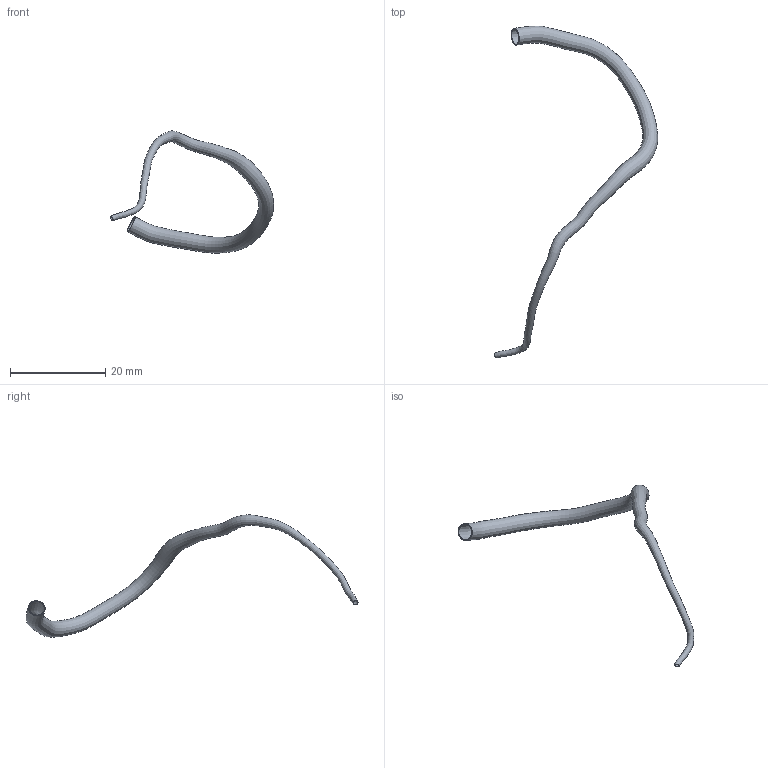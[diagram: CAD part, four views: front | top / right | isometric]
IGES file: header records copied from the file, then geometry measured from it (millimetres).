
Global section: file name: C:\Documents and Settings\Administrator\Desktop\FDA-Pig\Domestic RCA\Pig_000006\rca.seg.es.igs; native system: Rhinoceros ( May 19 2006 ); preprocessor: Trout Lake IGES 012 May 19 2006; date: 111205.185403; units: centimetre
Bounding box: 34.27 x 69.66 x 25.65 mm (x, y, z)
Surface area: 1791.8 mm2 (no closed solid volume)
Topology: 0 solids, 0 shells, 3 faces, 10 edges, 8 vertices
Faces by surface type: bspline 3
